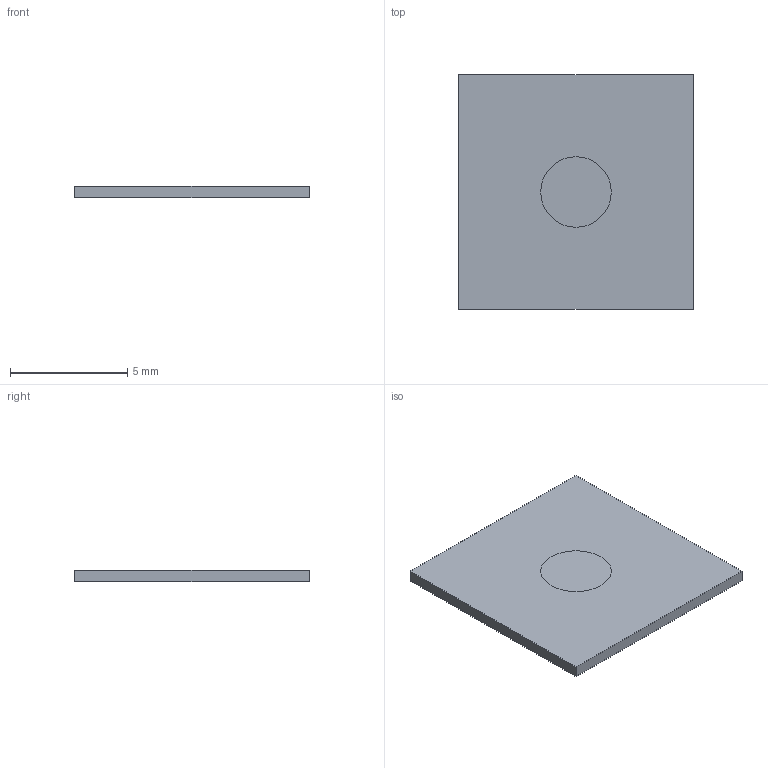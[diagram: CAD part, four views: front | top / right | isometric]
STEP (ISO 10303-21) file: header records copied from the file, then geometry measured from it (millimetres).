
FILE_DESCRIPTION(('Open CASCADE Model'),'2;1');
FILE_NAME('Open CASCADE Shape Model','2026-03-18T22:08:53',('Author'),( 'Open CASCADE'),'Open CASCADE STEP processor 7.8','Open CASCADE 7.8' ,'Unknown');
FILE_SCHEMA(('AUTOMOTIVE_DESIGN { 1 0 10303 214 1 1 1 1 }'));
Length unit declared in the file: millimetre
Products named in the file (1): Open CASCADE STEP translator 7.8 3
Bounding box: 10 x 10 x 0.5 mm (x, y, z)
Volume: 50 mm3; surface area: 220 mm2
Topology: 1 solids, 1 shells, 7 faces, 13 edges, 9 vertices
Faces by surface type: plane 7
Entity records: 355 total; most frequent: CARTESIAN_POINT 56, DIRECTION 56, LINE 36, VECTOR 36, ORIENTED_EDGE 26, PCURVE 26, DEFINITIONAL_REPRESENTATION 26, EDGE_CURVE 13
